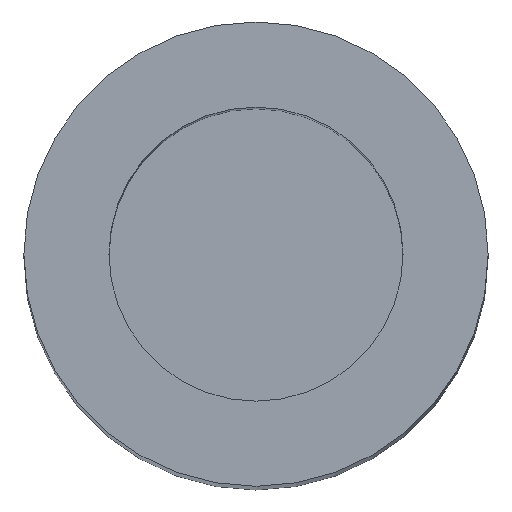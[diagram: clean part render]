
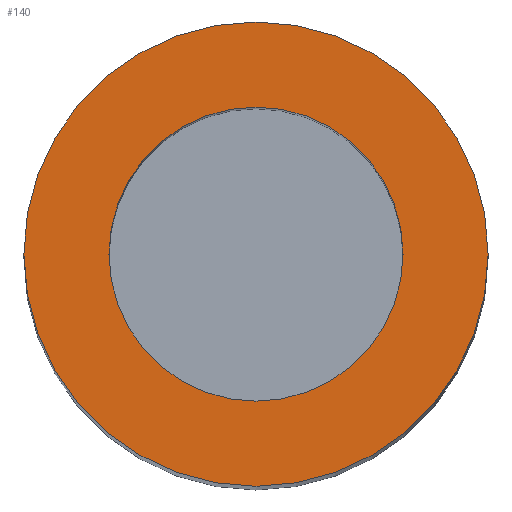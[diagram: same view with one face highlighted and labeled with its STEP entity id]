
A CAD part, top view. The second image highlights one B-rep face of the part: STEP entity #140.
In plain terms, the highlighted planar face has unit normal (0, 0, 1).
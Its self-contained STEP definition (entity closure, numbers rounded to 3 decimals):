
#24 = VERTEX_POINT('',#25);
#25 = CARTESIAN_POINT('',(3.,0.,31.5));
#32 = CYLINDRICAL_SURFACE('',#33,3.);
#33 = AXIS2_PLACEMENT_3D('',#34,#35,#36);
#34 = CARTESIAN_POINT('',(0.,0.,4.));
#35 = DIRECTION('',(-0.,-0.,-1.));
#36 = DIRECTION('',(1.,0.,0.));
#51 = EDGE_CURVE('',#24,#24,#52,.T.);
#52 = SURFACE_CURVE('',#53,(#58,#65),.PCURVE_S1.);
#53 = CIRCLE('',#54,3.);
#54 = AXIS2_PLACEMENT_3D('',#55,#56,#57);
#55 = CARTESIAN_POINT('',(0.,0.,31.5));
#56 = DIRECTION('',(0.,0.,1.));
#57 = DIRECTION('',(1.,0.,0.));
#58 = PCURVE('',#32,#59);
#59 = DEFINITIONAL_REPRESENTATION('',(#60),#64);
#60 = LINE('',#61,#62);
#61 = CARTESIAN_POINT('',(-0.,-27.5));
#62 = VECTOR('',#63,1.);
#63 = DIRECTION('',(-1.,0.));
#64 = ( GEOMETRIC_REPRESENTATION_CONTEXT(2) 
PARAMETRIC_REPRESENTATION_CONTEXT() REPRESENTATION_CONTEXT('2D SPACE',''
  ) );
#65 = PCURVE('',#66,#71);
#66 = PLANE('',#67);
#67 = AXIS2_PLACEMENT_3D('',#68,#69,#70);
#68 = CARTESIAN_POINT('',(0.,0.,31.5));
#69 = DIRECTION('',(0.,0.,1.));
#70 = DIRECTION('',(1.,0.,0.));
#71 = DEFINITIONAL_REPRESENTATION('',(#72),#76);
#72 = CIRCLE('',#73,3.);
#73 = AXIS2_PLACEMENT_2D('',#74,#75);
#74 = CARTESIAN_POINT('',(0.,0.));
#75 = DIRECTION('',(1.,0.));
#76 = ( GEOMETRIC_REPRESENTATION_CONTEXT(2) 
PARAMETRIC_REPRESENTATION_CONTEXT() REPRESENTATION_CONTEXT('2D SPACE',''
  ) );
#140 = ADVANCED_FACE('',(#141,#144),#66,.T.);
#141 = FACE_BOUND('',#142,.T.);
#142 = EDGE_LOOP('',(#143));
#143 = ORIENTED_EDGE('',*,*,#51,.T.);
#144 = FACE_BOUND('',#145,.T.);
#145 = EDGE_LOOP('',(#146));
#146 = ORIENTED_EDGE('',*,*,#147,.F.);
#147 = EDGE_CURVE('',#148,#148,#150,.T.);
#148 = VERTEX_POINT('',#149);
#149 = CARTESIAN_POINT('',(1.9,0.,31.5));
#150 = SURFACE_CURVE('',#151,(#156,#163),.PCURVE_S1.);
#151 = CIRCLE('',#152,1.9);
#152 = AXIS2_PLACEMENT_3D('',#153,#154,#155);
#153 = CARTESIAN_POINT('',(0.,0.,31.5));
#154 = DIRECTION('',(0.,0.,1.));
#155 = DIRECTION('',(1.,0.,0.));
#156 = PCURVE('',#66,#157);
#157 = DEFINITIONAL_REPRESENTATION('',(#158),#162);
#158 = CIRCLE('',#159,1.9);
#159 = AXIS2_PLACEMENT_2D('',#160,#161);
#160 = CARTESIAN_POINT('',(0.,0.));
#161 = DIRECTION('',(1.,0.));
#162 = ( GEOMETRIC_REPRESENTATION_CONTEXT(2) 
PARAMETRIC_REPRESENTATION_CONTEXT() REPRESENTATION_CONTEXT('2D SPACE',''
  ) );
#163 = PCURVE('',#164,#169);
#164 = CYLINDRICAL_SURFACE('',#165,1.9);
#165 = AXIS2_PLACEMENT_3D('',#166,#167,#168);
#166 = CARTESIAN_POINT('',(0.,0.,31.5));
#167 = DIRECTION('',(0.,0.,1.));
#168 = DIRECTION('',(1.,0.,-0.));
#169 = DEFINITIONAL_REPRESENTATION('',(#170),#174);
#170 = LINE('',#171,#172);
#171 = CARTESIAN_POINT('',(0.,0.));
#172 = VECTOR('',#173,1.);
#173 = DIRECTION('',(1.,0.));
#174 = ( GEOMETRIC_REPRESENTATION_CONTEXT(2) 
PARAMETRIC_REPRESENTATION_CONTEXT() REPRESENTATION_CONTEXT('2D SPACE',''
  ) );
